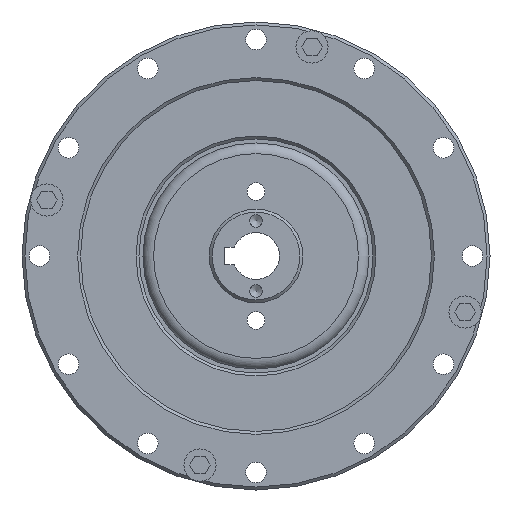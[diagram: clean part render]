
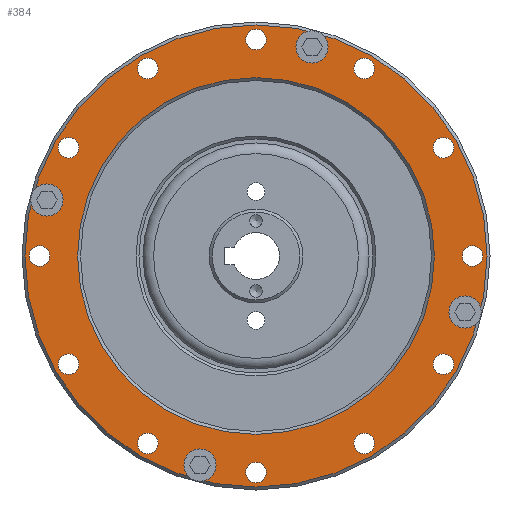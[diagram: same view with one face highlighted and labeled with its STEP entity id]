
A CAD part, left-side view. The second image highlights one B-rep face of the part: STEP entity #384.
In plain terms, the highlighted planar face has unit normal (-1, 0, 0).
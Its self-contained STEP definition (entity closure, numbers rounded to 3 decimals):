
#384=ADVANCED_FACE('',(#760,#761,#762,#763,#764,#765,#766,#767,#768,#769,
#770,#771,#772,#773,#774,#775,#776,#1484),#636,.F.);
#636=PLANE('',#4092);
#760=FACE_BOUND('',#1732,.T.);
#761=FACE_BOUND('',#1733,.T.);
#762=FACE_BOUND('',#1734,.T.);
#763=FACE_BOUND('',#1735,.T.);
#764=FACE_BOUND('',#1736,.T.);
#765=FACE_BOUND('',#1737,.T.);
#766=FACE_BOUND('',#1738,.T.);
#767=FACE_BOUND('',#1739,.T.);
#768=FACE_BOUND('',#1740,.T.);
#769=FACE_BOUND('',#1741,.T.);
#770=FACE_BOUND('',#1742,.T.);
#771=FACE_BOUND('',#1743,.T.);
#772=FACE_BOUND('',#1744,.T.);
#773=FACE_BOUND('',#1745,.T.);
#774=FACE_BOUND('',#1746,.T.);
#775=FACE_BOUND('',#1747,.T.);
#776=FACE_BOUND('',#1748,.T.);
#1484=FACE_OUTER_BOUND('',#1749,.T.);
#1732=EDGE_LOOP('',(#2414));
#1733=EDGE_LOOP('',(#2415));
#1734=EDGE_LOOP('',(#2416));
#1735=EDGE_LOOP('',(#2417));
#1736=EDGE_LOOP('',(#2418));
#1737=EDGE_LOOP('',(#2419));
#1738=EDGE_LOOP('',(#2420));
#1739=EDGE_LOOP('',(#2421));
#1740=EDGE_LOOP('',(#2422));
#1741=EDGE_LOOP('',(#2423));
#1742=EDGE_LOOP('',(#2424));
#1743=EDGE_LOOP('',(#2425));
#1744=EDGE_LOOP('',(#2426));
#1745=EDGE_LOOP('',(#2427));
#1746=EDGE_LOOP('',(#2428));
#1747=EDGE_LOOP('',(#2429));
#1748=EDGE_LOOP('',(#2430));
#1749=EDGE_LOOP('',(#2431));
#2414=ORIENTED_EDGE('',*,*,#3481,.T.);
#2415=ORIENTED_EDGE('',*,*,#3482,.T.);
#2416=ORIENTED_EDGE('',*,*,#3483,.T.);
#2417=ORIENTED_EDGE('',*,*,#3484,.T.);
#2418=ORIENTED_EDGE('',*,*,#3485,.T.);
#2419=ORIENTED_EDGE('',*,*,#3486,.T.);
#2420=ORIENTED_EDGE('',*,*,#3487,.T.);
#2421=ORIENTED_EDGE('',*,*,#3488,.T.);
#2422=ORIENTED_EDGE('',*,*,#3489,.T.);
#2423=ORIENTED_EDGE('',*,*,#3490,.T.);
#2424=ORIENTED_EDGE('',*,*,#3491,.T.);
#2425=ORIENTED_EDGE('',*,*,#3492,.T.);
#2426=ORIENTED_EDGE('',*,*,#3493,.T.);
#2427=ORIENTED_EDGE('',*,*,#3494,.T.);
#2428=ORIENTED_EDGE('',*,*,#3495,.T.);
#2429=ORIENTED_EDGE('',*,*,#3496,.T.);
#2430=ORIENTED_EDGE('',*,*,#3497,.T.);
#2431=ORIENTED_EDGE('',*,*,#3498,.T.);
#3069=VERTEX_POINT('',#6025);
#3070=VERTEX_POINT('',#6027);
#3071=VERTEX_POINT('',#6029);
#3072=VERTEX_POINT('',#6031);
#3073=VERTEX_POINT('',#6033);
#3074=VERTEX_POINT('',#6035);
#3075=VERTEX_POINT('',#6037);
#3076=VERTEX_POINT('',#6039);
#3077=VERTEX_POINT('',#6041);
#3078=VERTEX_POINT('',#6043);
#3079=VERTEX_POINT('',#6045);
#3080=VERTEX_POINT('',#6047);
#3081=VERTEX_POINT('',#6049);
#3082=VERTEX_POINT('',#6051);
#3083=VERTEX_POINT('',#6053);
#3084=VERTEX_POINT('',#6055);
#3085=VERTEX_POINT('',#6057);
#3086=VERTEX_POINT('',#6059);
#3481=EDGE_CURVE('',#3069,#3069,#3777,.T.);
#3482=EDGE_CURVE('',#3070,#3070,#3778,.T.);
#3483=EDGE_CURVE('',#3071,#3071,#3779,.T.);
#3484=EDGE_CURVE('',#3072,#3072,#3780,.T.);
#3485=EDGE_CURVE('',#3073,#3073,#3781,.T.);
#3486=EDGE_CURVE('',#3074,#3074,#3782,.T.);
#3487=EDGE_CURVE('',#3075,#3075,#3783,.T.);
#3488=EDGE_CURVE('',#3076,#3076,#3784,.T.);
#3489=EDGE_CURVE('',#3077,#3077,#3785,.T.);
#3490=EDGE_CURVE('',#3078,#3078,#3786,.T.);
#3491=EDGE_CURVE('',#3079,#3079,#3787,.T.);
#3492=EDGE_CURVE('',#3080,#3080,#3788,.T.);
#3493=EDGE_CURVE('',#3081,#3081,#3789,.T.);
#3494=EDGE_CURVE('',#3082,#3082,#3790,.T.);
#3495=EDGE_CURVE('',#3083,#3083,#3791,.T.);
#3496=EDGE_CURVE('',#3084,#3084,#3792,.T.);
#3497=EDGE_CURVE('',#3085,#3085,#3793,.T.);
#3498=EDGE_CURVE('',#3086,#3086,#3794,.T.);
#3777=CIRCLE('',#4074,1.5);
#3778=CIRCLE('',#4075,1.5);
#3779=CIRCLE('',#4076,1.5);
#3780=CIRCLE('',#4077,1.75);
#3781=CIRCLE('',#4078,1.75);
#3782=CIRCLE('',#4079,1.75);
#3783=CIRCLE('',#4080,1.75);
#3784=CIRCLE('',#4081,1.75);
#3785=CIRCLE('',#4082,1.75);
#3786=CIRCLE('',#4083,1.75);
#3787=CIRCLE('',#4084,1.75);
#3788=CIRCLE('',#4085,1.75);
#3789=CIRCLE('',#4086,1.75);
#3790=CIRCLE('',#4087,1.75);
#3791=CIRCLE('',#4088,1.5);
#3792=CIRCLE('',#4089,1.75);
#3793=CIRCLE('',#4090,30.5);
#3794=CIRCLE('',#4091,39.5);
#4074=AXIS2_PLACEMENT_3D('',#6024,#4847,#4848);
#4075=AXIS2_PLACEMENT_3D('',#6026,#4849,#4850);
#4076=AXIS2_PLACEMENT_3D('',#6028,#4851,#4852);
#4077=AXIS2_PLACEMENT_3D('',#6030,#4853,#4854);
#4078=AXIS2_PLACEMENT_3D('',#6032,#4855,#4856);
#4079=AXIS2_PLACEMENT_3D('',#6034,#4857,#4858);
#4080=AXIS2_PLACEMENT_3D('',#6036,#4859,#4860);
#4081=AXIS2_PLACEMENT_3D('',#6038,#4861,#4862);
#4082=AXIS2_PLACEMENT_3D('',#6040,#4863,#4864);
#4083=AXIS2_PLACEMENT_3D('',#6042,#4865,#4866);
#4084=AXIS2_PLACEMENT_3D('',#6044,#4867,#4868);
#4085=AXIS2_PLACEMENT_3D('',#6046,#4869,#4870);
#4086=AXIS2_PLACEMENT_3D('',#6048,#4871,#4872);
#4087=AXIS2_PLACEMENT_3D('',#6050,#4873,#4874);
#4088=AXIS2_PLACEMENT_3D('',#6052,#4875,#4876);
#4089=AXIS2_PLACEMENT_3D('',#6054,#4877,#4878);
#4090=AXIS2_PLACEMENT_3D('',#6056,#4879,#4880);
#4091=AXIS2_PLACEMENT_3D('',#6058,#4881,#4882);
#4092=AXIS2_PLACEMENT_3D('',#6060,#4883,#4884);
#4847=DIRECTION('',(1.,0.,0.));
#4848=DIRECTION('',(0.,-1.,0.));
#4849=DIRECTION('',(1.,0.,0.));
#4850=DIRECTION('',(0.,0.,1.));
#4851=DIRECTION('',(1.,0.,0.));
#4852=DIRECTION('',(0.,1.,0.));
#4853=DIRECTION('',(1.,0.,0.));
#4854=DIRECTION('',(0.,-0.5,-0.866));
#4855=DIRECTION('',(1.,0.,0.));
#4856=DIRECTION('',(0.,-0.866,-0.5));
#4857=DIRECTION('',(1.,0.,0.));
#4858=DIRECTION('',(0.,-1.,0.));
#4859=DIRECTION('',(1.,0.,0.));
#4860=DIRECTION('',(0.,-0.866,0.5));
#4861=DIRECTION('',(1.,0.,0.));
#4862=DIRECTION('',(0.,-0.5,0.866));
#4863=DIRECTION('',(1.,0.,0.));
#4864=DIRECTION('',(0.,0.,1.));
#4865=DIRECTION('',(1.,0.,0.));
#4866=DIRECTION('',(0.,0.5,0.866));
#4867=DIRECTION('',(1.,0.,0.));
#4868=DIRECTION('',(0.,0.866,0.5));
#4869=DIRECTION('',(1.,0.,0.));
#4870=DIRECTION('',(0.,1.,0.));
#4871=DIRECTION('',(1.,0.,0.));
#4872=DIRECTION('',(0.,0.866,-0.5));
#4873=DIRECTION('',(1.,0.,0.));
#4874=DIRECTION('',(0.,0.5,-0.866));
#4875=DIRECTION('',(1.,0.,0.));
#4876=DIRECTION('',(0.,0.,-1.));
#4877=DIRECTION('',(1.,0.,0.));
#4878=DIRECTION('',(0.,0.,-1.));
#4879=DIRECTION('',(1.,0.,0.));
#4880=DIRECTION('',(0.,0.,-1.));
#4881=DIRECTION('',(-1.,0.,0.));
#4882=DIRECTION('',(0.,0.,-1.));
#4883=DIRECTION('',(1.,0.,0.));
#4884=DIRECTION('',(0.,0.,-1.));
#6024=CARTESIAN_POINT('',(-6.5,9.576,-35.739));
#6025=CARTESIAN_POINT('',(-6.5,8.076,-35.739));
#6026=CARTESIAN_POINT('',(-6.5,-35.739,-9.576));
#6027=CARTESIAN_POINT('',(-6.5,-35.739,-8.076));
#6028=CARTESIAN_POINT('',(-6.5,-9.576,35.739));
#6029=CARTESIAN_POINT('',(-6.5,-8.076,35.739));
#6030=CARTESIAN_POINT('',(-6.5,32.043,-18.5));
#6031=CARTESIAN_POINT('',(-6.5,31.168,-20.016));
#6032=CARTESIAN_POINT('',(-6.5,18.5,-32.043));
#6033=CARTESIAN_POINT('',(-6.5,16.984,-32.918));
#6034=CARTESIAN_POINT('',(-6.5,0.,-37.));
#6035=CARTESIAN_POINT('',(-6.5,-1.75,-37.));
#6036=CARTESIAN_POINT('',(-6.5,-18.5,-32.043));
#6037=CARTESIAN_POINT('',(-6.5,-20.016,-31.168));
#6038=CARTESIAN_POINT('',(-6.5,-32.043,-18.5));
#6039=CARTESIAN_POINT('',(-6.5,-32.918,-16.984));
#6040=CARTESIAN_POINT('',(-6.5,-37.,0.));
#6041=CARTESIAN_POINT('',(-6.5,-37.,1.75));
#6042=CARTESIAN_POINT('',(-6.5,-32.043,18.5));
#6043=CARTESIAN_POINT('',(-6.5,-31.168,20.016));
#6044=CARTESIAN_POINT('',(-6.5,-18.5,32.043));
#6045=CARTESIAN_POINT('',(-6.5,-16.984,32.918));
#6046=CARTESIAN_POINT('',(-6.5,0.,37.));
#6047=CARTESIAN_POINT('',(-6.5,1.75,37.));
#6048=CARTESIAN_POINT('',(-6.5,18.5,32.043));
#6049=CARTESIAN_POINT('',(-6.5,20.016,31.168));
#6050=CARTESIAN_POINT('',(-6.5,32.043,18.5));
#6051=CARTESIAN_POINT('',(-6.5,32.918,16.984));
#6052=CARTESIAN_POINT('',(-6.5,35.739,9.576));
#6053=CARTESIAN_POINT('',(-6.5,35.739,8.076));
#6054=CARTESIAN_POINT('',(-6.5,37.,0.));
#6055=CARTESIAN_POINT('',(-6.5,37.,-1.75));
#6056=CARTESIAN_POINT('',(-6.5,0.,0.));
#6057=CARTESIAN_POINT('',(-6.5,0.,-30.5));
#6058=CARTESIAN_POINT('',(-6.5,0.,0.));
#6059=CARTESIAN_POINT('',(-6.5,0.,-39.5));
#6060=CARTESIAN_POINT('',(-6.5,40.,0.));
